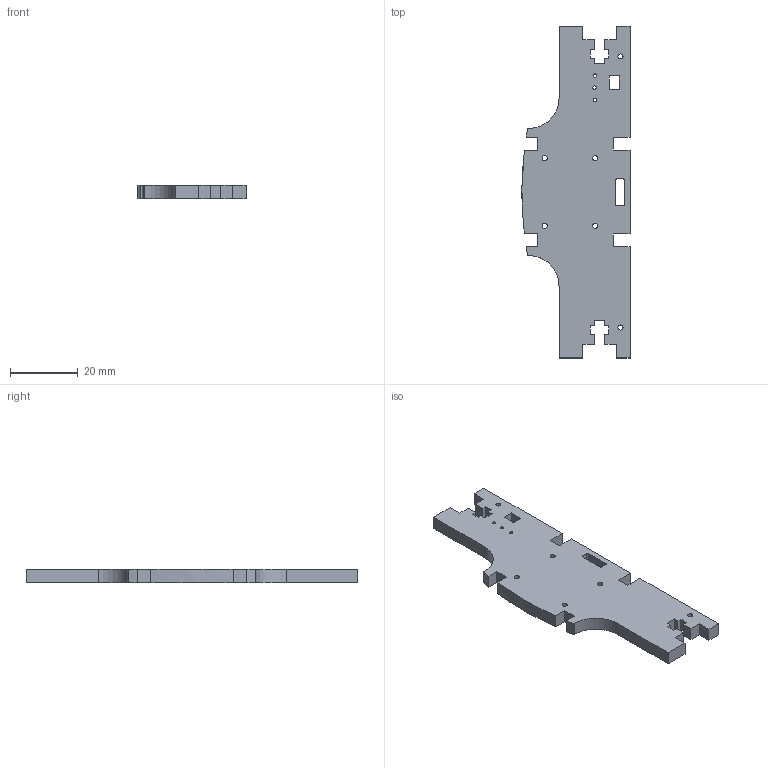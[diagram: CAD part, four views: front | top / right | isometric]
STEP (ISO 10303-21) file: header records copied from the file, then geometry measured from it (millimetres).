
FILE_DESCRIPTION(/* description */ (''),/* implementation_level */ '2;1');
FILE_NAME(/* name */ 'C5_Jaw.step',/* time_stamp */ '2025-09-23T19:20:13+01:00',/* author */ (''),/* organization */ (''),/* preprocessor_version */ 'ST-DEVELOPER v20.1',/* originating_system */ 'Autodesk Translation Framework v14.17.0.0',/* authorisation */ '');
FILE_SCHEMA (('AUTOMOTIVE_DESIGN { 1 0 10303 214 3 1 1 }'));
Length unit declared in the file: millimetre
Products named in the file (1): C5_Jaw
Bounding box: 31.99 x 98.15 x 4 mm (x, y, z)
Volume: 8964.8 mm3; surface area: 6121 mm2
Topology: 1 solids, 1 shells, 82 faces, 240 edges, 160 vertices
Faces by surface type: plane 64, cylinder 15, bspline 3
Full cylindrical faces by diameter (mm): 1 x3, 1.5 x6
Entity records: 2872 total; most frequent: CARTESIAN_POINT 614, ORIENTED_EDGE 480, DIRECTION 424, EDGE_CURVE 240, LINE 204, VECTOR 204, VERTEX_POINT 160, AXIS2_PLACEMENT_3D 110
